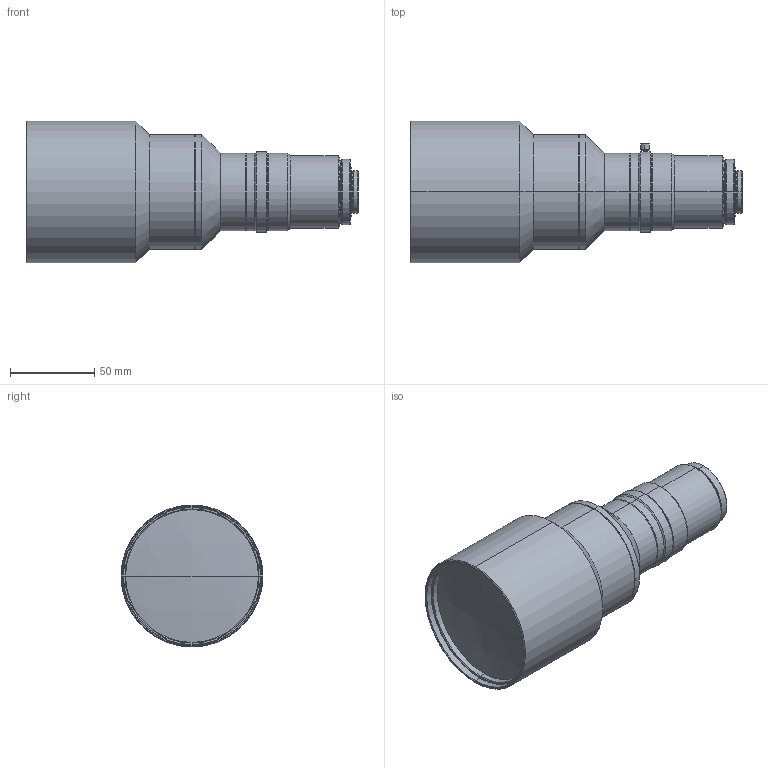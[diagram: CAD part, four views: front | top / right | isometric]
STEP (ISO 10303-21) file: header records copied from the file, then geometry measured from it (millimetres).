
FILE_DESCRIPTION (( 'STEP AP203' ), '1' );
FILE_NAME ('VS-TCM03-130_S.STEP', '2017-03-01T07:52:17', ( 'miura_vst' ), ( '' ), 'SwSTEP 2.0', 'SolidWorks 2017', '' );
FILE_SCHEMA (( 'CONFIG_CONTROL_DESIGN' ));
Length unit declared in the file: millimetre
Products named in the file (1): VS-TCM03-130_S
Bounding box: 196.48 x 84 x 84 mm (x, y, z)
Volume: 592067.6 mm3; surface area: 56239.4 mm2
Topology: 1 solids, 1 shells, 144 faces, 288 edges, 166 vertices
Faces by surface type: cone 72, cylinder 48, plane 20, sphere 4
Entity records: 3819 total; most frequent: DIRECTION 742, CARTESIAN_POINT 631, ORIENTED_EDGE 576, AXIS2_PLACEMENT_3D 311, EDGE_CURVE 288, VERTEX_POINT 166, CIRCLE 166, EDGE_LOOP 164
